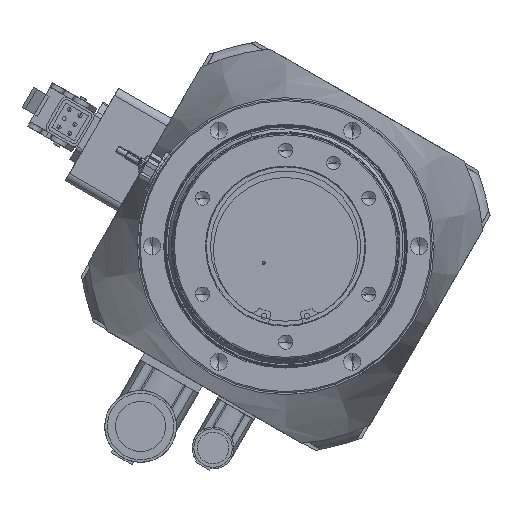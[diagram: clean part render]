
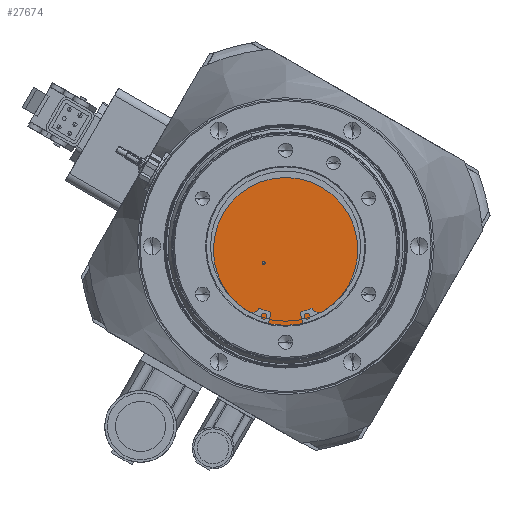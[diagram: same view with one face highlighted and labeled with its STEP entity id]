
A CAD part, front view. The second image highlights one B-rep face of the part: STEP entity #27674.
In plain terms, the highlighted planar face has unit normal (0, -1, 0).
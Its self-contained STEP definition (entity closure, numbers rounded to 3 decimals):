
#160 = DIRECTION ( 'NONE',  ( 0., 1., 0. ) ) ;
#377 = DIRECTION ( 'NONE',  ( 0., 0., 1. ) ) ;
#383 = AXIS2_PLACEMENT_3D ( 'NONE', #6902, #31929, #13267 ) ;
#528 = EDGE_LOOP ( 'NONE', ( #864, #12418 ) ) ;
#864 = ORIENTED_EDGE ( 'NONE', *, *, #21531, .T. ) ;
#2725 = CIRCLE ( 'NONE', #25667, 47.5 ) ;
#3765 = PLANE ( 'NONE',  #383 ) ;
#5140 = EDGE_CURVE ( 'NONE', #27888, #11342, #25277, .T. ) ;
#6312 = DIRECTION ( 'NONE',  ( 0., 1., 0. ) ) ;
#6760 = FACE_BOUND ( 'NONE', #528, .T. ) ;
#6902 = CARTESIAN_POINT ( 'NONE',  ( 55.209, -290.221, 134.409 ) ) ;
#7727 = ORIENTED_EDGE ( 'NONE', *, *, #34842, .F. ) ;
#8040 = CARTESIAN_POINT ( 'NONE',  ( 42.239, -290.221, 124.416 ) ) ;
#10411 = AXIS2_PLACEMENT_3D ( 'NONE', #33123, #160, #29502 ) ;
#11342 = VERTEX_POINT ( 'NONE', #34190 ) ;
#11640 = EDGE_CURVE ( 'NONE', #18929, #19167, #16902, .T. ) ;
#12418 = ORIENTED_EDGE ( 'NONE', *, *, #11640, .T. ) ;
#13267 = DIRECTION ( 'NONE',  ( 0., 0., 1. ) ) ;
#15011 = DIRECTION ( 'NONE',  ( 0., 1., 0. ) ) ;
#16623 = ORIENTED_EDGE ( 'NONE', *, *, #5140, .F. ) ;
#16902 = CIRCLE ( 'NONE', #10411, 1. ) ;
#17487 = CARTESIAN_POINT ( 'NONE',  ( 55.209, -290.221, 181.909 ) ) ;
#18929 = VERTEX_POINT ( 'NONE', #24113 ) ;
#19167 = VERTEX_POINT ( 'NONE', #31309 ) ;
#20924 = DIRECTION ( 'NONE',  ( 0., 0., 1. ) ) ;
#21531 = EDGE_CURVE ( 'NONE', #19167, #18929, #27688, .T. ) ;
#24018 = DIRECTION ( 'NONE',  ( 0., 1., 0. ) ) ;
#24113 = CARTESIAN_POINT ( 'NONE',  ( 42.239, -290.221, 125.416 ) ) ;
#24273 = CARTESIAN_POINT ( 'NONE',  ( 55.209, -290.221, 134.409 ) ) ;
#24983 = CARTESIAN_POINT ( 'NONE',  ( 55.209, -290.221, 134.409 ) ) ;
#25277 = CIRCLE ( 'NONE', #26415, 47.5 ) ;
#25667 = AXIS2_PLACEMENT_3D ( 'NONE', #24983, #6312, #28067 ) ;
#26415 = AXIS2_PLACEMENT_3D ( 'NONE', #24273, #24018, #20924 ) ;
#27674 = ADVANCED_FACE ( 'NONE', ( #37984, #6760 ), #3765, .F. ) ;
#27688 = CIRCLE ( 'NONE', #31348, 1. ) ;
#27888 = VERTEX_POINT ( 'NONE', #17487 ) ;
#28067 = DIRECTION ( 'NONE',  ( 0., 0., 1. ) ) ;
#29502 = DIRECTION ( 'NONE',  ( 0., 0., 1. ) ) ;
#31309 = CARTESIAN_POINT ( 'NONE',  ( 42.239, -290.221, 123.416 ) ) ;
#31348 = AXIS2_PLACEMENT_3D ( 'NONE', #8040, #15011, #377 ) ;
#31929 = DIRECTION ( 'NONE',  ( 0., 1., 0. ) ) ;
#33123 = CARTESIAN_POINT ( 'NONE',  ( 42.239, -290.221, 124.416 ) ) ;
#34190 = CARTESIAN_POINT ( 'NONE',  ( 55.209, -290.221, 86.909 ) ) ;
#34842 = EDGE_CURVE ( 'NONE', #11342, #27888, #2725, .T. ) ;
#37984 = FACE_OUTER_BOUND ( 'NONE', #38196, .T. ) ;
#38196 = EDGE_LOOP ( 'NONE', ( #7727, #16623 ) ) ;
